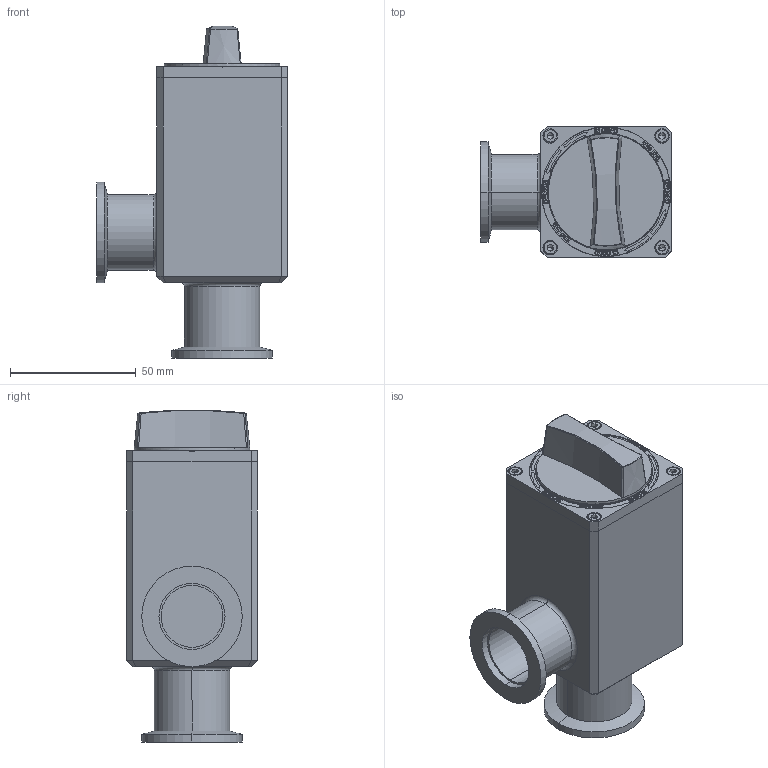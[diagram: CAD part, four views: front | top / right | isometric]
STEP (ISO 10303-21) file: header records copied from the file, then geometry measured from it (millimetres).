
FILE_DESCRIPTION (( 'STEP AP203' ), '1' );
FILE_NAME ('KF25忒雄褒概.STEP', '2024-03-01T08:20:31', ( '' ), ( '' ), 'SwSTEP 2.0', 'SolidWorks 2023', '' );
FILE_SCHEMA (( 'CONFIG_CONTROL_DESIGN' ));
Length unit declared in the file: millimetre
Products named in the file (1): KF25手动角阀
Bounding box: 76 x 52 x 132.15 mm (x, y, z)
Surface area: 36104.3 mm2 (no closed solid volume)
Topology: 0 solids, 15 shells, 364 faces, 1614 edges, 1209 vertices
Faces by surface type: plane 217, bspline 73, cylinder 46, cone 14, torus 14
Entity records: 23250 total; most frequent: CARTESIAN_POINT 11477, ORIENTED_EDGE 2250, DIRECTION 1927, EDGE_CURVE 1606, VERTEX_POINT 1209, VECTOR 1021, LINE 1021, AXIS2_PLACEMENT_3D 453
